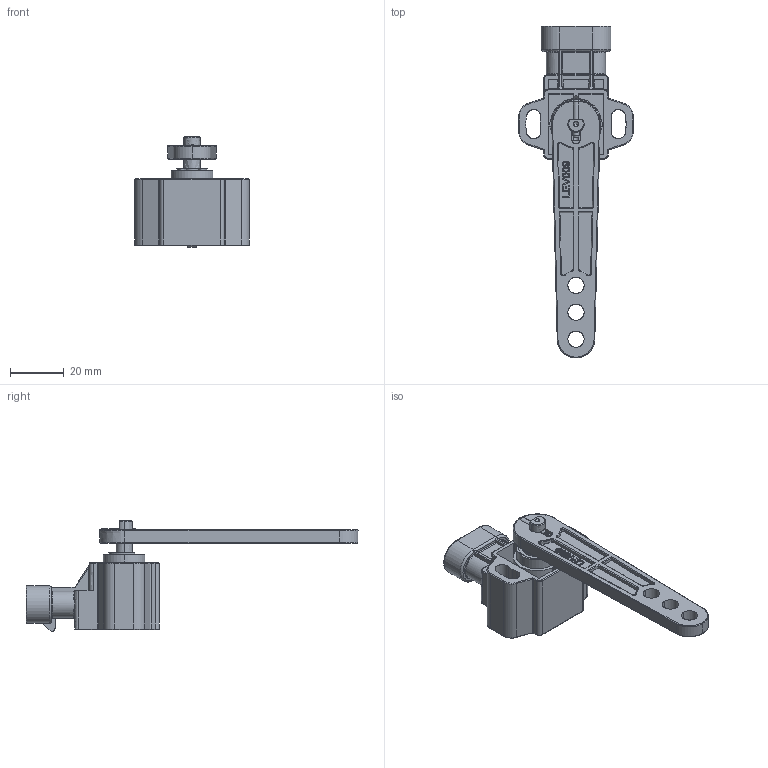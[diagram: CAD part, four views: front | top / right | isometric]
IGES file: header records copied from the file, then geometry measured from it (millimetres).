
Start section: SolidWorks IGES file using analytic representation for surfaces
Global section: file name: \\srv4gefran\dir-cat\Disegni Catalogo\Mobile\GR3P\GR3P 32\3D\Solidworks 2024\GR3PA S3E2SL xxx xxxx D0.IGS; native system: SolidWorks 2024; preprocessor: SolidWorks 2024; author: Loda-w1; date: 241219.154600; units: millimetre
Bounding box: 42.5 x 123.5 x 41.07 mm (x, y, z)
Surface area: 16850.7 mm2 (no closed solid volume)
Topology: 0 solids, 0 shells, 755 faces, 7126 edges, 7097 vertices
Faces by surface type: bspline 415, revolution 340
